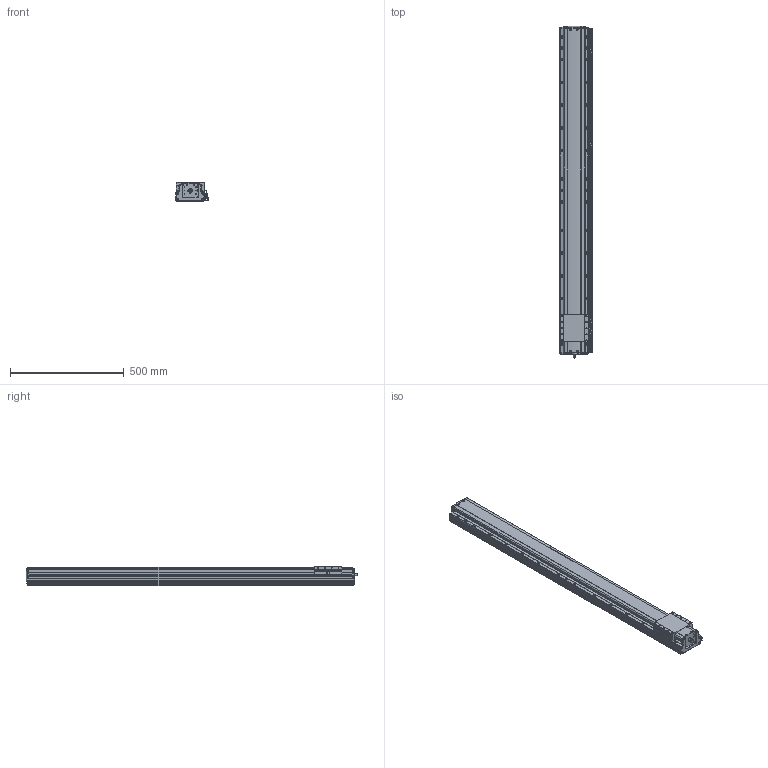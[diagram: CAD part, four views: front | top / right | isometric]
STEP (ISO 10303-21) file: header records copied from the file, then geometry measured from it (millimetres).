
FILE_DESCRIPTION(('STEP AP214'),'1');
FILE_NAME('Z:/Web/3D/PSA125/STP/PSA125-1200 (3D)/PSA125ㅁㅁ-1200+3SR.stp','2014-06-23T05:25:13',(' '),(' '),'Spatial InterOp 3D',' ',' ');
FILE_SCHEMA(('automotive_design'));
Length unit declared in the file: millimetre
Products named in the file (36): 스크루 : Round - M4.0 x 10.0; RRCV-PA120; SLIDE; BASE; FRCV-PA120-1(기준 뿔 제거); RR1500; 스크루 : Round - M4.0 x 6.0; 너트 : Square - M10.0 x 220.7419; EE-SX674; SBK-SX674-352; 스크루 : Round - M3.0 x 6.0; M3.0 x 6.0; SRL-16x17-380L; SGD-PA95; 스크루 : Round - M3.0 x 8.0
Bounding box: 141 x 1458.1 x 86 mm (x, y, z)
Volume: 12070111.4 mm3; surface area: 1065914.3 mm2
Topology: 36 solids, 36 shells, 2483 faces, 6657 edges, 4262 vertices
Faces by surface type: plane 1379, cylinder 744, cone 252, sphere 52, bspline 31, torus 25
Entity records: 99485 total; most frequent: CARTESIAN_POINT 16262, DIRECTION 13235, ORIENTED_EDGE 13014, EDGE_CURVE 6507, AXIS2_PLACEMENT_3D 4440, LINE 4355, VECTOR 4355, VERTEX_POINT 4262
